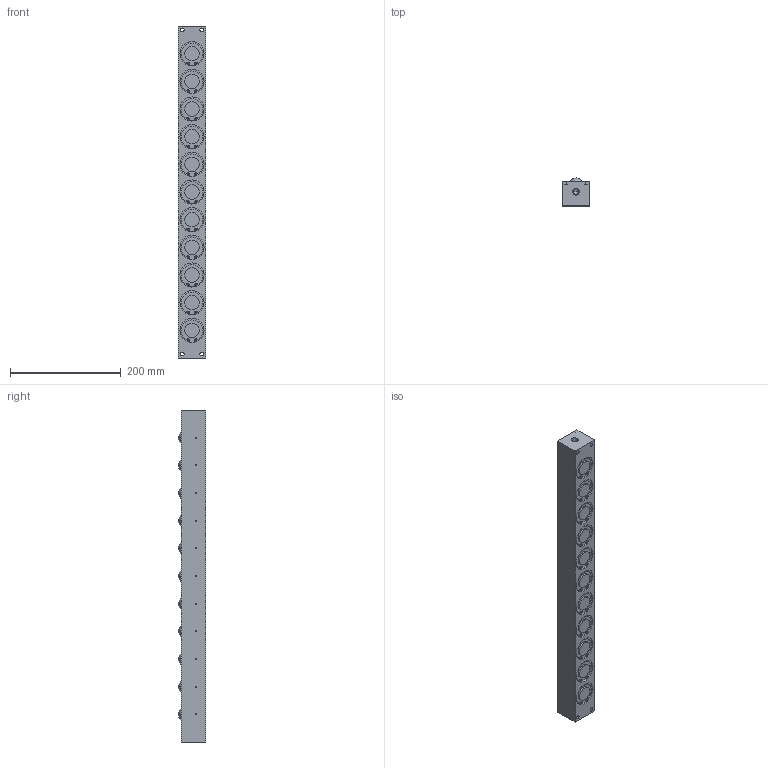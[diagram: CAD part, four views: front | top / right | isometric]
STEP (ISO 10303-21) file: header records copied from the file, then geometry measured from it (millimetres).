
FILE_DESCRIPTION (( 'STEP AP203' ), '1' );
FILE_NAME ('PVL55SW-11.STEP', '2016-01-06T02:18:19', ( '' ), ( '' ), 'SwSTEP 2.0', 'SolidWorks 2013', '' );
FILE_SCHEMA (( 'CONFIG_CONTROL_DESIGN' ));
Length unit declared in the file: millimetre
Products named in the file (1): PVL55SW-11
Bounding box: 49 x 50 x 600 mm (x, y, z)
Volume: 1268251.8 mm3; surface area: 150693.9 mm2
Topology: 2 solids, 2 shells, 543 faces, 1265 edges, 807 vertices
Faces by surface type: cylinder 330, plane 141, cone 50, sphere 22
Entity records: 15568 total; most frequent: DIRECTION 3035, CARTESIAN_POINT 2568, ORIENTED_EDGE 2434, AXIS2_PLACEMENT_3D 1274, EDGE_CURVE 1217, VERTEX_POINT 807, CIRCLE 730, EDGE_LOOP 680
